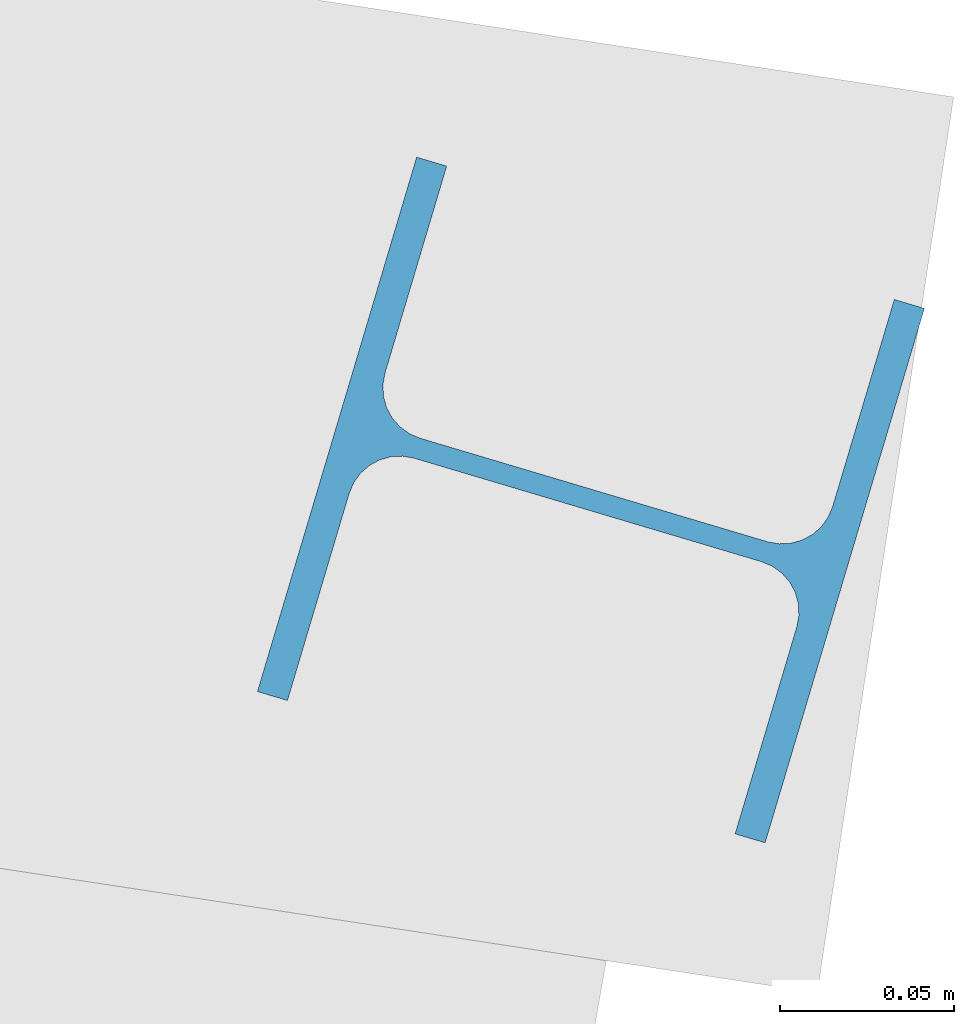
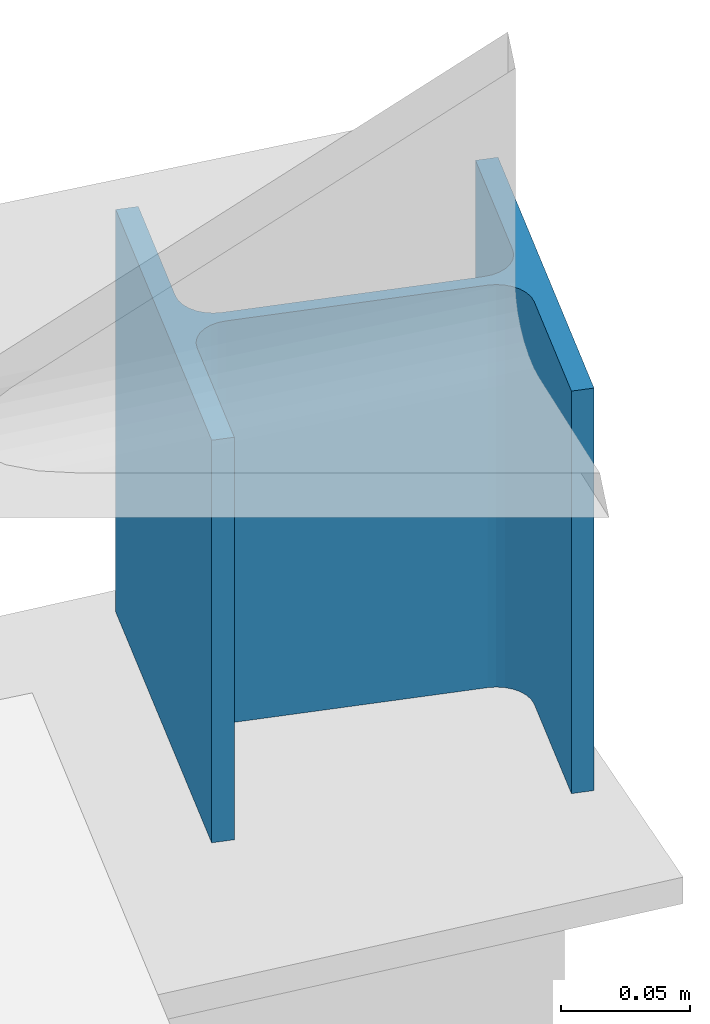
# One storey, part 8 of 21: 1 column.
"""IFC2X3 building model written with IfcOpenShell, lengths in millimetres."""

import ifcopenshell
import ifcopenshell.guid

model = None  # the IFC model being written
_history = None  # IfcOwnerHistory: only IFC2X3 demands one
_inside = {}  # id of a spatial element -> (the spatial element, [elements in it])
_under = {}  # id of a project, library or spatial element -> (it, [spatial elements below it])
_declared = {}  # id of a project -> (the project, [libraries it declares])
_typed = {}  # id of a type object -> (the type object, [elements of that type])
_made_of = {}  # id of a material, layer set ... -> (it, [elements and type objects made of it])


def new_model(schema):
    """Start an empty IFC model of exactly this schema.

    Asked for "IFC4X3", IfcOpenShell would pick the latest addendum, in which some entities
    have other attributes; the version numbers below select the first issue.
    IFC2X3 requires an IfcOwnerHistory on every rooted entity: one is made here for all.
    """
    global model, _history
    if schema == "IFC4X3":
        model = ifcopenshell.file(schema_version=(4, 3, 0, 0))
    else:
        model = ifcopenshell.file(schema=schema)
    _inside.clear()
    _under.clear()
    _declared.clear()
    _typed.clear()
    _made_of.clear()
    _history = None
    if model.schema == "IFC2X3":
        org = make("IfcOrganization", Name="unknown")
        user = make(
            "IfcPersonAndOrganization",
            ThePerson=make("IfcPerson", FamilyName="unknown"),
            TheOrganization=org,
        )
        app = make(
            "IfcApplication",
            ApplicationDeveloper=org,
            Version="unknown",
            ApplicationFullName="unknown",
            ApplicationIdentifier="unknown",
        )
        _history = make(
            "IfcOwnerHistory",
            OwningUser=user,
            OwningApplication=app,
            ChangeAction="ADDED",
            CreationDate=0,
        )
    return model


def make(cls, **values):
    """One entity of the class cls with the attributes given. An attribute that is None is left unset."""
    return model.create_entity(
        cls, **{name: value for name, value in values.items() if value is not None}
    )


def entity(cls, *values):
    """Any entity or typed value of the class cls, its attributes in the order of the schema. None: left unset."""
    e = model.create_entity(cls)
    for i, value in enumerate(values):
        if value is not None:
            e[i] = value
    return e


def rooted(cls, **values):
    """An entity with a GlobalId (a new one), such as an element, a storey or a relation."""
    return make(cls, GlobalId=ifcopenshell.guid.new(), OwnerHistory=_history, **values)


def si_unit(unit_type, name, prefix=None):
    """IfcSIUnit, for example si_unit("LENGTHUNIT", "METRE", prefix="MILLI")."""
    return make("IfcSIUnit", UnitType=unit_type, Prefix=prefix, Name=name)


def converted_unit(unit_type, name, factor, base, dimensions=None, offset=None):
    """IfcConversionBasedUnit, such as the inch: factor (a typed value) times the base unit."""
    return make(
        "IfcConversionBasedUnit"
        if offset is None
        else "IfcConversionBasedUnitWithOffset",
        ConversionOffset=offset,
        Dimensions=None
        if dimensions is None
        else entity("IfcDimensionalExponents", *dimensions),
        UnitType=unit_type,
        Name=name,
        ConversionFactor=make(
            "IfcMeasureWithUnit", ValueComponent=factor, UnitComponent=base
        ),
    )


def derived_unit(unit_type, elements):
    """IfcDerivedUnit: a product of units, each with its exponent."""
    return make(
        "IfcDerivedUnit",
        Elements=[
            make("IfcDerivedUnitElement", Unit=unit, Exponent=power)
            for unit, power in elements
        ],
        UnitType=unit_type,
    )


def assignment(units):
    """IfcUnitAssignment: the units of a project."""
    return None if units is None else make("IfcUnitAssignment", Units=units)


def point(xyz):
    """IfcCartesianPoint."""
    return None if xyz is None else make("IfcCartesianPoint", Coordinates=xyz)


def direction(xyz):
    """IfcDirection."""
    return None if xyz is None else make("IfcDirection", DirectionRatios=xyz)


def frame(location, z_axis=None, x_axis=None):
    """IfcAxis2Placement3D, a coordinate frame: its origin and axes. An axis left out is left unset."""
    return make(
        "IfcAxis2Placement3D",
        Location=point(location),
        Axis=direction(z_axis),
        RefDirection=direction(x_axis),
    )


def frame_2d(location, x_axis=None):
    """IfcAxis2Placement2D, a coordinate frame in the plane: its origin and x axis."""
    return make(
        "IfcAxis2Placement2D", Location=point(location), RefDirection=direction(x_axis)
    )


def origin():
    """The frame at (0, 0, 0) with its axes left unset."""
    return frame((0.0, 0.0, 0.0))


def place(relative_to, where):
    """IfcLocalPlacement: puts the frame where relative to a parent placement (None: the world)."""
    return make(
        "IfcLocalPlacement", PlacementRelTo=relative_to, RelativePlacement=where
    )


def context(
    kind, dimensions, precision=None, world=None, true_north=None, identifier=None
):
    """IfcGeometricRepresentationContext, for example the 3D "Model" context."""
    return make(
        "IfcGeometricRepresentationContext",
        ContextIdentifier=identifier,
        ContextType=kind,
        CoordinateSpaceDimension=dimensions,
        Precision=precision,
        WorldCoordinateSystem=world,
        TrueNorth=true_north,
    )


def subcontext(parent, identifier, kind, view, scale=None):
    """IfcGeometricRepresentationSubContext, for example "Body" below "Model"."""
    return make(
        "IfcGeometricRepresentationSubContext",
        ContextIdentifier=identifier,
        ContextType=kind,
        ParentContext=parent,
        TargetScale=scale,
        TargetView=view,
    )


def project(units=None, contexts=None):
    """IfcProject with its units and contexts."""
    return rooted(
        "IfcProject",
        Name="project",
        RepresentationContexts=contexts,
        UnitsInContext=assignment(units),
    )


def spatial(cls, under=None, at=None, **own):
    """A site, building, storey or space (cls), placed at a placement, below another one or the project."""
    s = rooted(cls, ObjectPlacement=at, **own)
    if under is not None:
        _under.setdefault(under.id(), (under, []))[1].append(s)
    return s


def profile(cls, at=None, kind="AREA", **sizes):
    """A parametric profile (cls). Its sizes go by their IFC names, for example OverallWidth=200.0."""
    return make(cls, ProfileType=kind, Position=at, **sizes)


def i_section(**sizes):
    """IfcIShapeProfileDef."""
    return profile("IfcIShapeProfileDef", **sizes)


def extrude(swept, where, along, depth):
    """IfcExtrudedAreaSolid: the profile swept, set in the frame where, extruded along a direction by depth."""
    return make(
        "IfcExtrudedAreaSolid",
        SweptArea=swept,
        Position=where,
        ExtrudedDirection=direction(along),
        Depth=depth,
    )


def shape(context_of_items, identifier, shape_type, items):
    """IfcShapeRepresentation: the items that make up one representation, for example the "Body"."""
    return make(
        "IfcShapeRepresentation",
        ContextOfItems=context_of_items,
        RepresentationIdentifier=identifier,
        RepresentationType=shape_type,
        Items=items,
    )


def source(mapping_origin, context_of_items, identifier, shape_type, items):
    """IfcRepresentationMap: a shape defined once, which mapped items show again and again."""
    return make(
        "IfcRepresentationMap",
        MappingOrigin=mapping_origin,
        MappedRepresentation=shape(context_of_items, identifier, shape_type, items),
    )


def transform(
    local_origin,
    x_axis=None,
    y_axis=None,
    z_axis=None,
    scale=None,
    scale2=None,
    scale3=None,
    uniform=True,
):
    """IfcCartesianTransformationOperator3D, or its non-uniform kind. x_axis, y_axis, z_axis: its Axis1, 2, 3."""
    if uniform:
        return make(
            "IfcCartesianTransformationOperator3D",
            Axis1=direction(x_axis),
            Axis2=direction(y_axis),
            LocalOrigin=point(local_origin),
            Scale=scale,
            Axis3=direction(z_axis),
        )
    return make(
        "IfcCartesianTransformationOperator3DnonUniform",
        Axis1=direction(x_axis),
        Axis2=direction(y_axis),
        LocalOrigin=point(local_origin),
        Scale=scale,
        Axis3=direction(z_axis),
        Scale2=scale2,
        Scale3=scale3,
    )


def mapped(mapping_source, mapping_target):
    """IfcMappedItem: shows the shape of a source again, moved by a transform."""
    return make(
        "IfcMappedItem", MappingSource=mapping_source, MappingTarget=mapping_target
    )


def material(Name=None, Category=None):
    """IfcMaterial."""
    return make("IfcMaterial", Name=Name, Category=Category)


def made_of(thing, what):
    """Note that an element or type object is made of a material, layer set ...; save() writes the relation."""
    if what is not None:
        _made_of.setdefault(what.id(), (what, []))[1].append(thing)
    return thing


def type_object(cls, material=None, **own):
    """A type object (cls), such as IfcWallType, which elements share."""
    return made_of(rooted(cls, **own), material)


def type_shapes(of_type, sources):
    """Give a type object the sources (RepresentationMaps) that its elements show as mapped items."""
    of_type.RepresentationMaps = sources


def element(
    cls,
    number,
    at=None,
    inside=None,
    cuts=None,
    type_object=None,
    material=None,
    context=None,
    identifier="Body",
    shape_type=None,
    held_by="IfcProductDefinitionShape",
    body=None,
    shapes=None,
    **own,
):
    """One element of the class cls, such as IfcWall. Its Tag is "e" and its number.

    at: its placement. inside: the storey or other place that contains it. cuts: it is an
    opening in that element (IfcRelVoidsElement). A single representation is given by context,
    identifier, shape_type and body (its items); several are given by shapes. held_by: the class
    of the entity that holds the representations. save() writes the other relations.
    """
    e = rooted(cls, Tag="e%d" % number, ObjectPlacement=at, **own)
    if body is not None:
        shapes = [shape(context, identifier, shape_type, body)]
    if shapes is not None:
        e.Representation = make(held_by, Representations=shapes)
    if inside is not None:
        _inside.setdefault(inside.id(), (inside, []))[1].append(e)
    if cuts is not None:
        rooted(
            "IfcRelVoidsElement", RelatingBuildingElement=cuts, RelatedOpeningElement=e
        )
    if type_object is not None:
        _typed.setdefault(type_object.id(), (type_object, []))[1].append(e)
    return made_of(e, material)


def aggregate(whole, parts):
    """IfcRelAggregates: a whole, such as a stair, and the parts it consists of."""
    return rooted("IfcRelAggregates", RelatingObject=whole, RelatedObjects=parts)


def save(model, path):
    """Write the relations noted so far, then the file.

    IfcRelAggregates (storeys below a building ...), IfcRelContainedInSpatialStructure (elements
    in a storey), IfcRelDefinesByType, IfcRelAssociatesMaterial and IfcRelDeclares: one each for
    every whole, place, type object, material and project.
    """
    for whole, parts in _under.values():
        aggregate(whole, parts)
    for where, things in _inside.values():
        rooted(
            "IfcRelContainedInSpatialStructure",
            RelatedElements=things,
            RelatingStructure=where,
        )
    for kind, things in _typed.values():
        rooted("IfcRelDefinesByType", RelatedObjects=things, RelatingType=kind)
    for what, things in _made_of.values():
        rooted("IfcRelAssociatesMaterial", RelatedObjects=things, RelatingMaterial=what)
    for by, libraries in _declared.values():
        rooted("IfcRelDeclares", RelatingContext=by, RelatedDefinitions=libraries)
    model.write(path)


model = new_model("IFC2X3")

# Units and contexts
model_context = context("Model", 3, precision=0.01, world=origin(), true_north=direction((6.123233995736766e-17, 1.0)))
body_context = subcontext(model_context, "Body", "Model", "MODEL_VIEW")
ifc_project = project(units=[si_unit("LENGTHUNIT", "METRE", prefix="MILLI"), converted_unit("PLANEANGLEUNIT", "DEGREE", entity("IfcPlaneAngleMeasure", 0.017453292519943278), si_unit("PLANEANGLEUNIT", "RADIAN"), dimensions=[0, 0, 0, 0, 0, 0, 0]), si_unit("AREAUNIT", "SQUARE_METRE"), derived_unit("THERMALTRANSMITTANCEUNIT", [(si_unit("MASSUNIT", "GRAM", prefix="KILO"), 1), (si_unit("THERMODYNAMICTEMPERATUREUNIT", "KELVIN"), -1), (si_unit("TIMEUNIT", "SECOND"), -3)])], contexts=[model_context])

# Site, building, storey
site_placement = place(None, frame((-72937.88054949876, 11621.45624098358, 0.0), z_axis=(0.0, 0.0, 1.0), x_axis=(0.9346418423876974, -0.35559053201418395, 0.0)))
site = spatial("IfcSite", under=ifc_project, at=site_placement, Name="Default", CompositionType="ELEMENT")
building_placement = place(site_placement, origin())
building = spatial("IfcBuilding", under=site, at=building_placement, CompositionType="ELEMENT")
storey_placement = place(building_placement, frame((0.0, 0.0, 4250.0)))
storey = spatial("IfcBuildingStorey", under=building, at=storey_placement, Name="01 eerste verdieping", CompositionType="ELEMENT", Elevation=4250.0)

# Column
ifc_material = material(Name="metaal_staal_generiek")
column_type = type_object("IfcColumnType", Name="DIE16", PredefinedType="COLUMN", material=ifc_material)
shared_shape = source(origin(), body_context, "Body", "SweptSolid", [
    extrude(i_section(OverallWidth=160.0, OverallDepth=152.0, WebThickness=5.999999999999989, FlangeThickness=9.000000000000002, FilletRadius=15.0, at=frame_2d((0.0, 7.105427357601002e-15), x_axis=(1.0, 0.0))), frame((0.0, 0.0, 4190.0), z_axis=(0.0, 0.0, 1.0), x_axis=(-1.0, 0.0, 0.0)), (0.0, 0.0, 1.0), 190.0000000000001),
])
type_shapes(column_type, [shared_shape])
column_placement = place(storey_placement, frame((66520.00016348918, 35640.00002183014, -4250.0), z_axis=(0.0, 0.0, 1.0), x_axis=(-0.07392507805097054, 0.9972637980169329, 0.0)))
element("IfcColumn", 1, at=column_placement, inside=storey, type_object=column_type, material=ifc_material, Name="28.11_SCO_KolomHEA:DIE16", ObjectType="28.11_SCO_KolomHEA:DIE16", context=body_context, shape_type="MappedRepresentation", body=[
    mapped(shared_shape, transform((0.0, 0.0, 0.0), scale=1.0)),
])

save(model, "model.ifc")
